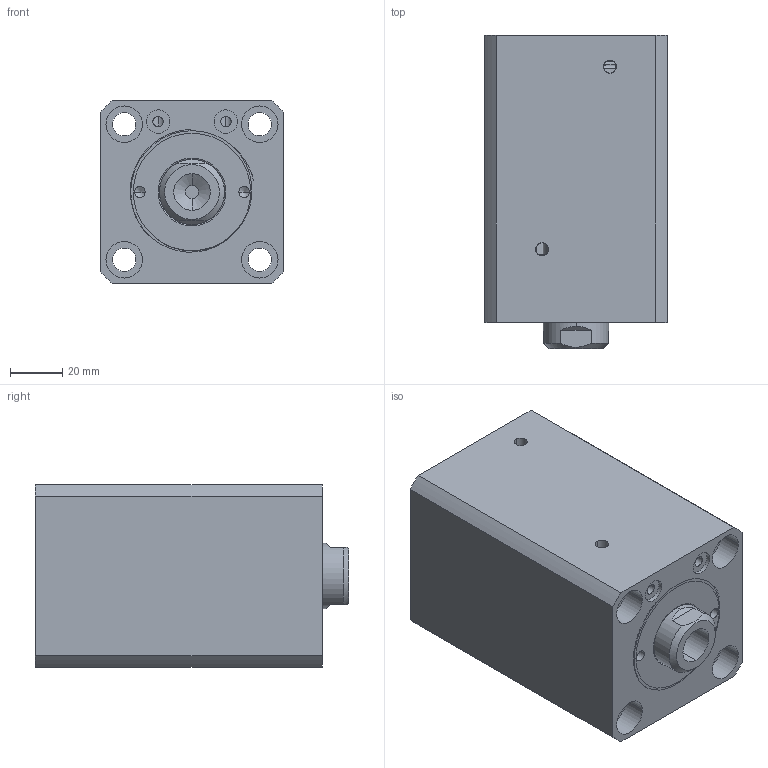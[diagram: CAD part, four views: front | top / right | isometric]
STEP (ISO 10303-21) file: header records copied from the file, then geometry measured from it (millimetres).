
FILE_DESCRIPTION (( 'STEP AP214' ), '1' );
FILE_NAME ('chtb-sdma40x55n_asm.STEP', '2018-06-06T06:16:08', ( 'Windows' ), ( 'Microsoft' ), 'SwSTEP 2.0', 'SolidWorks 2015', '' );
FILE_SCHEMA (( 'AUTOMOTIVE_DESIGN' ));
Length unit declared in the file: millimetre
Products named in the file (4): CHTB-SD40QG; CHTB-SDMA40X55NBT; CHTB-SD40X55NHSG; chtb-sdma40x55n_asm
Assembly tree (3 placements, depth 2):
  chtb-sdma40x55n_asm
    CHTB-SD40X55NHSG
    CHTB-SDMA40X55NBT
    CHTB-SD40QG
Bounding box: 70 x 120 x 70 mm (x, y, z)
Volume: 450920.3 mm3; surface area: 92825.6 mm2
Topology: 3 solids, 3 shells, 157 faces, 413 edges, 274 vertices
Faces by surface type: cylinder 84, plane 36, torus 14, bspline 14, cone 9
Entity records: 10139 total; most frequent: CARTESIAN_POINT 6157, ORIENTED_EDGE 814, DIRECTION 768, EDGE_CURVE 407, AXIS2_PLACEMENT_3D 326, VERTEX_POINT 274, EDGE_LOOP 193, CIRCLE 177
